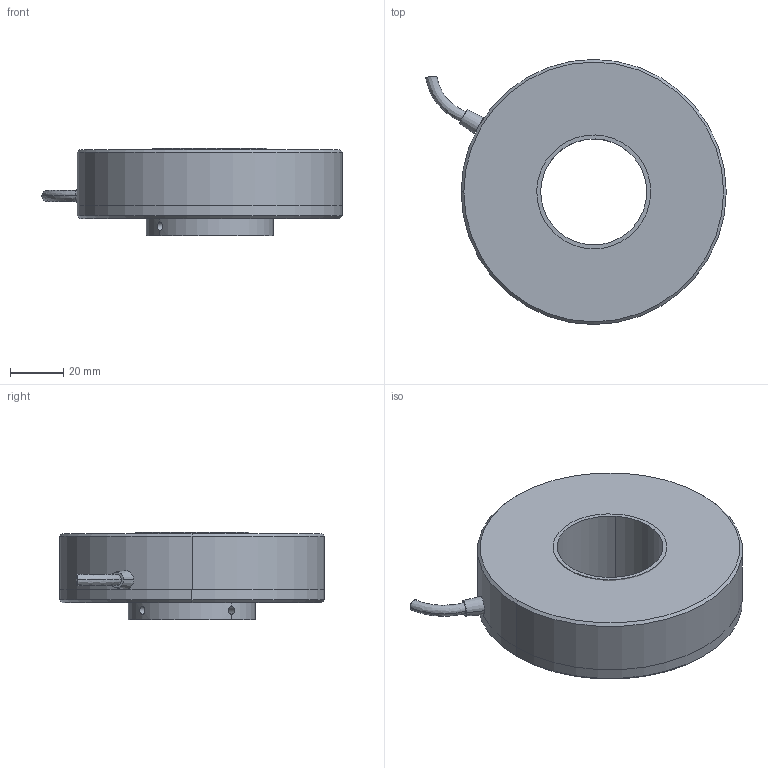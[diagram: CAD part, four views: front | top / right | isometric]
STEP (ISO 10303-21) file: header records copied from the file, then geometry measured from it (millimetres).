
FILE_DESCRIPTION (( 'STEP AP214' ), '1' );
FILE_NAME ('NB_Assem1.STEP', '2024-06-18T01:31:31', ( '' ), ( '' ), 'SwSTEP 2.0', 'SolidWorks 2023', '' );
FILE_SCHEMA (( 'AUTOMOTIVE_DESIGN' ));
Length unit declared in the file: millimetre
Products named in the file (4): NB_Part1; NB_Part2; NB_Assem1; NB_Part3
Assembly tree (3 placements, depth 2):
  NB_Assem1
    NB_Part1
    NB_Part2
    NB_Part3
Bounding box: 113.36 x 100 x 33 mm (x, y, z)
Volume: 176404.9 mm3; surface area: 48000.1 mm2
Topology: 4 solids, 4 shells, 55 faces, 124 edges, 80 vertices
Faces by surface type: cylinder 34, plane 13, cone 6, bspline 2
Entity records: 2000 total; most frequent: CARTESIAN_POINT 557, DIRECTION 304, ORIENTED_EDGE 248, AXIS2_PLACEMENT_3D 131, EDGE_CURVE 124, VERTEX_POINT 80, EDGE_LOOP 78, CIRCLE 72
